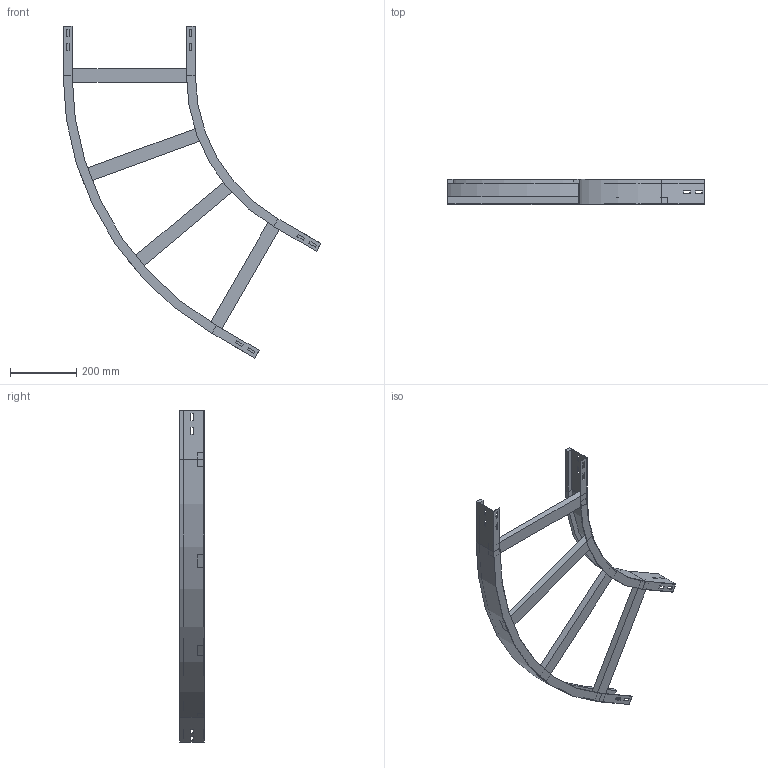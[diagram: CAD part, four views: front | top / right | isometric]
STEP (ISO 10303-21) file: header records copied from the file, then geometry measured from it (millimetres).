
FILE_DESCRIPTION (( 'STEP AP214' ), '1' );
FILE_NAME ('13B5C400.step', '2025-02-21T15:20:37', ( '' ), ( '' ), 'SwSTEP 2.0', 'SolidWorks 2023', '' );
FILE_SCHEMA (( 'AUTOMOTIVE_DESIGN' ));
Length unit declared in the file: millimetre
Products named in the file (4): TRAVERSINO_400; A2_LONGH.INTERNO 60°_H75_R500; 13B5C400; A2_LONGH.ESTERNO 60°_H75_R500+400
Assembly tree (6 placements, depth 2):
  13B5C400
    A2_LONGH.INTERNO 60°_H75_R500
    A2_LONGH.ESTERNO 60°_H75_R500+400
    TRAVERSINO_400  x4
Bounding box: 779.9 x 75 x 1004.42 mm (x, y, z)
Volume: 2088014 mm3; surface area: 684234.1 mm2
Topology: 6 solids, 6 shells, 140 faces, 352 edges, 224 vertices
Faces by surface type: plane 132, cylinder 8
Entity records: 3829 total; most frequent: CARTESIAN_POINT 647, ORIENTED_EDGE 632, DIRECTION 594, EDGE_CURVE 316, LINE 300, VECTOR 300, VERTEX_POINT 200, EDGE_LOOP 154
